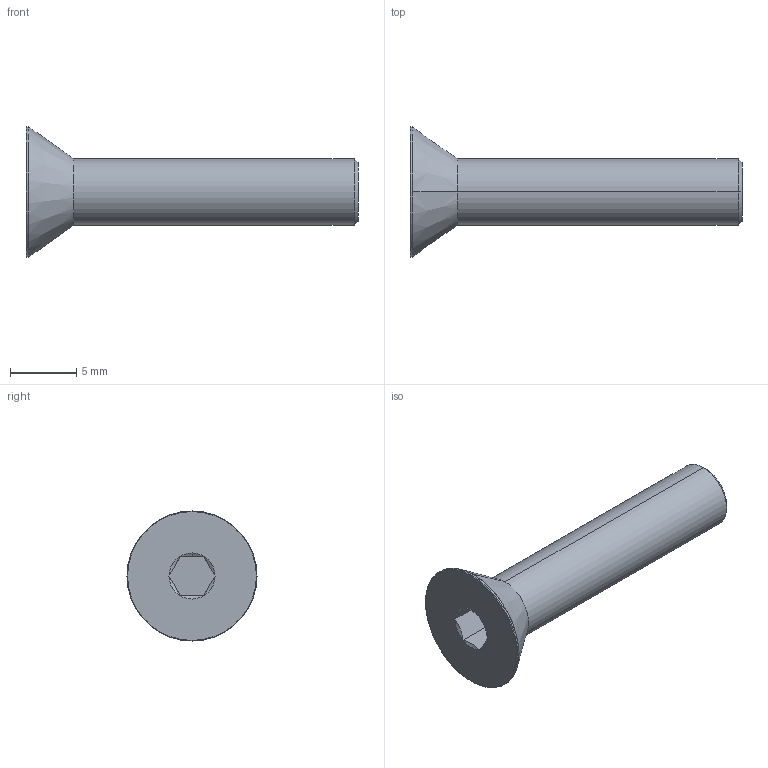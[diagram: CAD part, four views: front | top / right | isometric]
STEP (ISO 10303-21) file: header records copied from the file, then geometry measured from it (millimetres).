
FILE_DESCRIPTION (( 'STEP AP203' ), '1' );
FILE_NAME ('LGDB-TDE-M5x25.STEP', '2026-08-10T11:39:34', ( '' ), ( '' ), 'SwSTEP 2.0', 'SolidWorks 2020', '' );
FILE_SCHEMA (( 'CONFIG_CONTROL_DESIGN' ));
Length unit declared in the file: millimetre
Products named in the file (1): LGDB-TDE-M5x25
Bounding box: 25 x 9.8 x 9.8 mm (x, y, z)
Volume: 566.4 mm3; surface area: 555.9 mm2
Topology: 1 solids, 1 shells, 28 faces, 53 edges, 28 vertices
Faces by surface type: cone 11, plane 9, torus 4, cylinder 4
Entity records: 784 total; most frequent: CARTESIAN_POINT 145, DIRECTION 129, ORIENTED_EDGE 106, AXIS2_PLACEMENT_3D 54, EDGE_CURVE 53, EDGE_LOOP 29, FACE_OUTER_BOUND 28, ADVANCED_FACE 28
